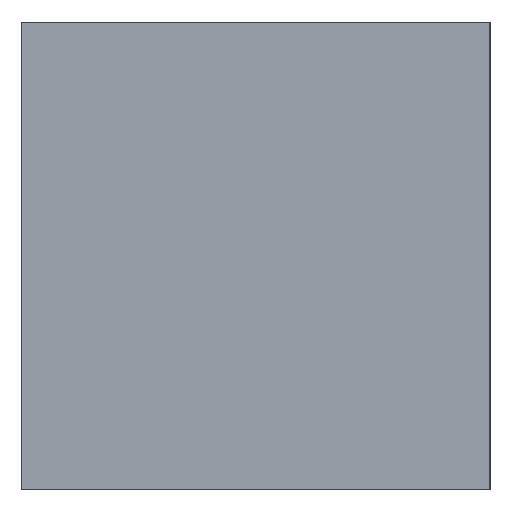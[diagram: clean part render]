
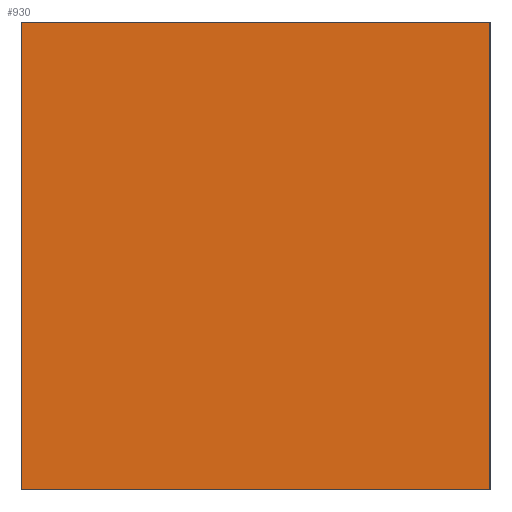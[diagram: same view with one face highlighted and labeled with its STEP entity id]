
A CAD part, left-side view. The second image highlights one B-rep face of the part: STEP entity #930.
In plain terms, the highlighted planar face has unit normal (-1, 0, 0).
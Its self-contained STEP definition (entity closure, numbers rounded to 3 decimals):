
#796=CARTESIAN_POINT('',(-7.696,-2.68,0.0));
#795=VERTEX_POINT('',#796);
#814=CARTESIAN_POINT('',(-7.696,-2.68,5.359));
#813=VERTEX_POINT('',#814);
#822=EDGE_CURVE('',#795,#813,#827,.T.);
#827=LINE('',#796,#829);
#829=VECTOR('',#830,5.359);
#830=DIRECTION('',(0.0,0.0,1.0));
#892=CARTESIAN_POINT('',(-7.696,2.68,0.0));
#891=VERTEX_POINT('',#892);
#902=CARTESIAN_POINT('',(-7.696,2.68,5.359));
#901=VERTEX_POINT('',#902);
#900=EDGE_CURVE('',#901,#891,#905,.T.);
#905=LINE('',#902,#907);
#907=VECTOR('',#908,5.359);
#908=DIRECTION('',(0.0,0.0,-1.0));
#930=ADVANCED_FACE('',(#936),#931,.T.);
#931=PLANE('',#932);
#932=AXIS2_PLACEMENT_3D('',#933,#934,#935);
#933=CARTESIAN_POINT('',(-7.696,2.68,0.0));
#934=DIRECTION('',(-1.0,0.0,0.0));
#935=DIRECTION('',(0.,0.,1.));
#936=FACE_OUTER_BOUND('',#937,.T.);
#937=EDGE_LOOP('',(#938,#948,#958,#968));
#939=EDGE_CURVE('',#795,#891,#944,.T.);
#944=LINE('',#796,#946);
#946=VECTOR('',#947,5.359);
#947=DIRECTION('',(0.0,1.0,0.0));
#938=ORIENTED_EDGE('',*,*,#939,.F.);
#948=ORIENTED_EDGE('',*,*,#822,.T.);
#959=EDGE_CURVE('',#901,#813,#964,.T.);
#964=LINE('',#902,#966);
#966=VECTOR('',#967,5.359);
#967=DIRECTION('',(0.0,-1.0,0.0));
#958=ORIENTED_EDGE('',*,*,#959,.F.);
#968=ORIENTED_EDGE('',*,*,#900,.T.);
